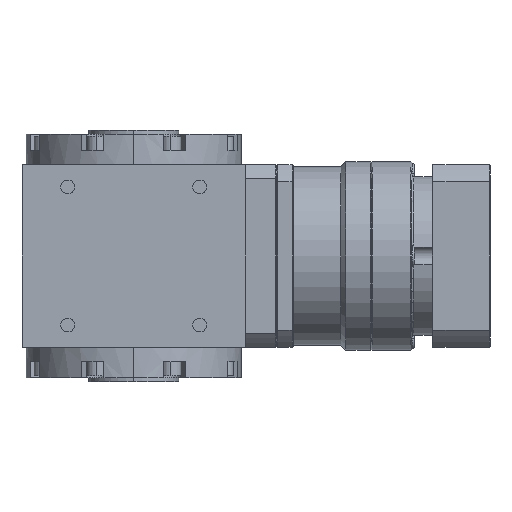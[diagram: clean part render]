
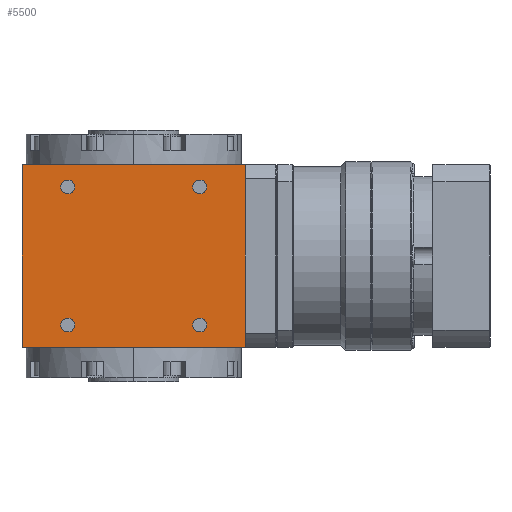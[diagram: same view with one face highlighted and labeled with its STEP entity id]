
A CAD part, left-side view. The second image highlights one B-rep face of the part: STEP entity #5500.
In plain terms, the highlighted planar face has unit normal (-1, 0, 0).
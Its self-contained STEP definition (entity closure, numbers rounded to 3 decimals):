
#339 = DIRECTION ( 'NONE',  ( 0., -1., 0. ) ) ;
#342 = ORIENTED_EDGE ( 'NONE', *, *, #11608, .T. ) ;
#516 = CARTESIAN_POINT ( 'NONE',  ( -55., 0., 45. ) ) ;
#547 = DIRECTION ( 'NONE',  ( 1., 0., 0. ) ) ;
#586 = AXIS2_PLACEMENT_3D ( 'NONE', #1808, #4075, #9761 ) ;
#703 = CIRCLE ( 'NONE', #4865, 3.4 ) ;
#1263 = EDGE_CURVE ( 'NONE', #21110, #30798, #6817, .T. ) ;
#1531 = DIRECTION ( 'NONE',  ( 0., -1., 0. ) ) ;
#1787 = VERTEX_POINT ( 'NONE', #24523 ) ;
#1808 = CARTESIAN_POINT ( 'NONE',  ( -55., -32.5, -34. ) ) ;
#2050 = EDGE_LOOP ( 'NONE', ( #5906, #18243 ) ) ;
#2057 = CARTESIAN_POINT ( 'NONE',  ( -55., 55., -45. ) ) ;
#2089 = CIRCLE ( 'NONE', #6245, 3.4 ) ;
#2301 = DIRECTION ( 'NONE',  ( 1., 0., 0. ) ) ;
#2302 = EDGE_CURVE ( 'NONE', #2616, #22115, #8237, .T. ) ;
#2616 = VERTEX_POINT ( 'NONE', #18995 ) ;
#2696 = ORIENTED_EDGE ( 'NONE', *, *, #2302, .T. ) ;
#2764 = CARTESIAN_POINT ( 'NONE',  ( -55., 29.1, 34. ) ) ;
#3169 = CIRCLE ( 'NONE', #27040, 3.4 ) ;
#3439 = EDGE_CURVE ( 'NONE', #31317, #17692, #21180, .T. ) ;
#3824 = DIRECTION ( 'NONE',  ( 1., 0., 0. ) ) ;
#4075 = DIRECTION ( 'NONE',  ( 1., 0., 0. ) ) ;
#4619 = CARTESIAN_POINT ( 'NONE',  ( -55., -35.9, -34. ) ) ;
#4660 = FACE_OUTER_BOUND ( 'NONE', #4879, .T. ) ;
#4707 = VERTEX_POINT ( 'NONE', #19354 ) ;
#4825 = FACE_BOUND ( 'NONE', #20217, .T. ) ;
#4865 = AXIS2_PLACEMENT_3D ( 'NONE', #25148, #29864, #27753 ) ;
#4879 = EDGE_LOOP ( 'NONE', ( #12686, #28300, #7808, #13644 ) ) ;
#5162 = AXIS2_PLACEMENT_3D ( 'NONE', #29926, #547, #30251 ) ;
#5500 = ADVANCED_FACE ( 'NONE', ( #4660, #21854, #24292, #29480, #4825 ), #19113, .T. ) ;
#5906 = ORIENTED_EDGE ( 'NONE', *, *, #17329, .T. ) ;
#6245 = AXIS2_PLACEMENT_3D ( 'NONE', #13064, #15661, #22952 ) ;
#6811 = CIRCLE ( 'NONE', #586, 3.4 ) ;
#6817 = CIRCLE ( 'NONE', #20808, 3.4 ) ;
#7169 = CARTESIAN_POINT ( 'NONE',  ( -55., 32.5, -34. ) ) ;
#7565 = CARTESIAN_POINT ( 'NONE',  ( -55., -55., -45. ) ) ;
#7808 = ORIENTED_EDGE ( 'NONE', *, *, #9111, .T. ) ;
#8225 = CARTESIAN_POINT ( 'NONE',  ( -55., -55., 45. ) ) ;
#8237 = CIRCLE ( 'NONE', #10826, 3.4 ) ;
#9004 = DIRECTION ( 'NONE',  ( 0., -1., 0. ) ) ;
#9055 = CARTESIAN_POINT ( 'NONE',  ( -55., 35.9, -34. ) ) ;
#9111 = EDGE_CURVE ( 'NONE', #4707, #28601, #30263, .T. ) ;
#9670 = ORIENTED_EDGE ( 'NONE', *, *, #13699, .T. ) ;
#9761 = DIRECTION ( 'NONE',  ( 0., -1., 0. ) ) ;
#10110 = ORIENTED_EDGE ( 'NONE', *, *, #29803, .T. ) ;
#10423 = DIRECTION ( 'NONE',  ( 0., -1., 0. ) ) ;
#10826 = AXIS2_PLACEMENT_3D ( 'NONE', #7169, #2301, #339 ) ;
#10843 = EDGE_CURVE ( 'NONE', #26176, #14685, #28017, .T. ) ;
#11241 = VECTOR ( 'NONE', #22785, 1000. ) ;
#11396 = EDGE_CURVE ( 'NONE', #17692, #28601, #25180, .T. ) ;
#11608 = EDGE_CURVE ( 'NONE', #14685, #26176, #6811, .T. ) ;
#12080 = VECTOR ( 'NONE', #9004, 1000. ) ;
#12686 = ORIENTED_EDGE ( 'NONE', *, *, #3439, .F. ) ;
#13064 = CARTESIAN_POINT ( 'NONE',  ( -55., -32.5, 34. ) ) ;
#13624 = VECTOR ( 'NONE', #31067, 1000. ) ;
#13644 = ORIENTED_EDGE ( 'NONE', *, *, #11396, .F. ) ;
#13699 = EDGE_CURVE ( 'NONE', #30798, #21110, #2089, .T. ) ;
#14028 = AXIS2_PLACEMENT_3D ( 'NONE', #29009, #31599, #19282 ) ;
#14685 = VERTEX_POINT ( 'NONE', #29089 ) ;
#14816 = CARTESIAN_POINT ( 'NONE',  ( -55., 55., -45. ) ) ;
#15002 = CIRCLE ( 'NONE', #5162, 3.4 ) ;
#15297 = AXIS2_PLACEMENT_3D ( 'NONE', #2057, #19746, #27047 ) ;
#15596 = EDGE_CURVE ( 'NONE', #1787, #18919, #15002, .T. ) ;
#15661 = DIRECTION ( 'NONE',  ( 1., 0., 0. ) ) ;
#15944 = ORIENTED_EDGE ( 'NONE', *, *, #10843, .T. ) ;
#16259 = CARTESIAN_POINT ( 'NONE',  ( -55., -35.9, 34. ) ) ;
#16449 = CARTESIAN_POINT ( 'NONE',  ( -55., 0., -45. ) ) ;
#16457 = DIRECTION ( 'NONE',  ( 1., 0., 0. ) ) ;
#16603 = LINE ( 'NONE', #16449, #12080 ) ;
#17329 = EDGE_CURVE ( 'NONE', #18919, #1787, #703, .T. ) ;
#17692 = VERTEX_POINT ( 'NONE', #30824 ) ;
#18187 = EDGE_LOOP ( 'NONE', ( #15944, #342 ) ) ;
#18243 = ORIENTED_EDGE ( 'NONE', *, *, #15596, .T. ) ;
#18919 = VERTEX_POINT ( 'NONE', #2764 ) ;
#18995 = CARTESIAN_POINT ( 'NONE',  ( -55., 29.1, -34. ) ) ;
#19113 = PLANE ( 'NONE',  #15297 ) ;
#19282 = DIRECTION ( 'NONE',  ( 0., -1., 0. ) ) ;
#19354 = CARTESIAN_POINT ( 'NONE',  ( -55., -55., -45. ) ) ;
#19746 = DIRECTION ( 'NONE',  ( -1., 0., 0. ) ) ;
#20217 = EDGE_LOOP ( 'NONE', ( #9670, #30137 ) ) ;
#20808 = AXIS2_PLACEMENT_3D ( 'NONE', #24386, #16457, #1531 ) ;
#21110 = VERTEX_POINT ( 'NONE', #29350 ) ;
#21180 = LINE ( 'NONE', #28463, #13624 ) ;
#21854 = FACE_BOUND ( 'NONE', #2050, .T. ) ;
#22115 = VERTEX_POINT ( 'NONE', #9055 ) ;
#22346 = VECTOR ( 'NONE', #10423, 1000. ) ;
#22785 = DIRECTION ( 'NONE',  ( 0., 0., 1. ) ) ;
#22952 = DIRECTION ( 'NONE',  ( 0., -1., 0. ) ) ;
#23299 = DIRECTION ( 'NONE',  ( 0., -1., 0. ) ) ;
#24292 = FACE_BOUND ( 'NONE', #30844, .T. ) ;
#24386 = CARTESIAN_POINT ( 'NONE',  ( -55., -32.5, 34. ) ) ;
#24523 = CARTESIAN_POINT ( 'NONE',  ( -55., 35.9, 34. ) ) ;
#25148 = CARTESIAN_POINT ( 'NONE',  ( -55., 32.5, 34. ) ) ;
#25180 = LINE ( 'NONE', #516, #22346 ) ;
#26049 = CARTESIAN_POINT ( 'NONE',  ( -55., 32.5, -34. ) ) ;
#26176 = VERTEX_POINT ( 'NONE', #4619 ) ;
#27040 = AXIS2_PLACEMENT_3D ( 'NONE', #26049, #3824, #23299 ) ;
#27047 = DIRECTION ( 'NONE',  ( 0., 0., 1. ) ) ;
#27753 = DIRECTION ( 'NONE',  ( 0., -1., 0. ) ) ;
#28017 = CIRCLE ( 'NONE', #14028, 3.4 ) ;
#28300 = ORIENTED_EDGE ( 'NONE', *, *, #31066, .T. ) ;
#28463 = CARTESIAN_POINT ( 'NONE',  ( -55., 55., -45. ) ) ;
#28601 = VERTEX_POINT ( 'NONE', #8225 ) ;
#29009 = CARTESIAN_POINT ( 'NONE',  ( -55., -32.5, -34. ) ) ;
#29089 = CARTESIAN_POINT ( 'NONE',  ( -55., -29.1, -34. ) ) ;
#29350 = CARTESIAN_POINT ( 'NONE',  ( -55., -29.1, 34. ) ) ;
#29480 = FACE_BOUND ( 'NONE', #18187, .T. ) ;
#29803 = EDGE_CURVE ( 'NONE', #22115, #2616, #3169, .T. ) ;
#29864 = DIRECTION ( 'NONE',  ( 1., 0., 0. ) ) ;
#29926 = CARTESIAN_POINT ( 'NONE',  ( -55., 32.5, 34. ) ) ;
#30137 = ORIENTED_EDGE ( 'NONE', *, *, #1263, .T. ) ;
#30251 = DIRECTION ( 'NONE',  ( 0., -1., 0. ) ) ;
#30263 = LINE ( 'NONE', #7565, #11241 ) ;
#30798 = VERTEX_POINT ( 'NONE', #16259 ) ;
#30824 = CARTESIAN_POINT ( 'NONE',  ( -55., 55., 45. ) ) ;
#30844 = EDGE_LOOP ( 'NONE', ( #2696, #10110 ) ) ;
#31066 = EDGE_CURVE ( 'NONE', #31317, #4707, #16603, .T. ) ;
#31067 = DIRECTION ( 'NONE',  ( 0., 0., 1. ) ) ;
#31317 = VERTEX_POINT ( 'NONE', #14816 ) ;
#31599 = DIRECTION ( 'NONE',  ( 1., 0., 0. ) ) ;
